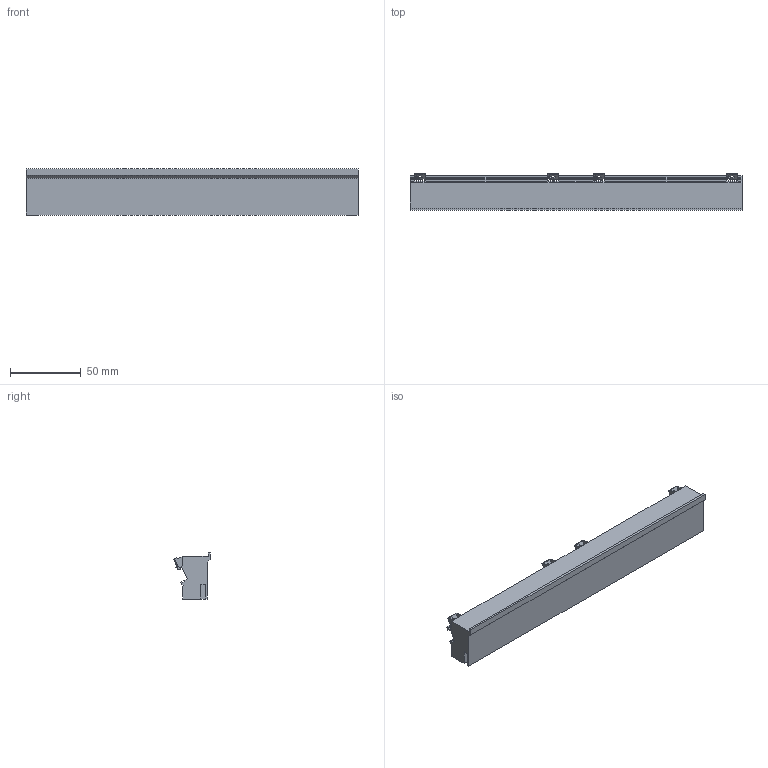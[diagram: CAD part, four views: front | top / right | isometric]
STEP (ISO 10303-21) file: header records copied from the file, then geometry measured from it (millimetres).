
FILE_DESCRIPTION(('Open CASCADE Model'),'2;1');
FILE_NAME('SOLID','2026-10-21T18:37:40',('Author'),('Open CASCADE'), 'Open CASCADE STEP processor 8.0','build123d','Unknown');
FILE_SCHEMA(('AUTOMOTIVE_DESIGN { 1 0 10303 214 1 1 1 1 }'));
Products named in the file (1): SOLID
Bounding box: 234 x 25.92 x 32.5 mm (x, y, z)
Volume: 122693.1 mm3; surface area: 30323.8 mm2
Topology: 1 solids, 1 shells, 612 faces, 1738 edges, 1116 vertices
Faces by surface type: plane 335, cylinder 276, bspline 1
Entity records: 46933 total; most frequent: CARTESIAN_POINT 14030, DIRECTION 5807, ORIENTED_EDGE 3476, PCURVE 3476, DEFINITIONAL_REPRESENTATION 3476, LINE 2574, VECTOR 2574, EDGE_CURVE 1738
